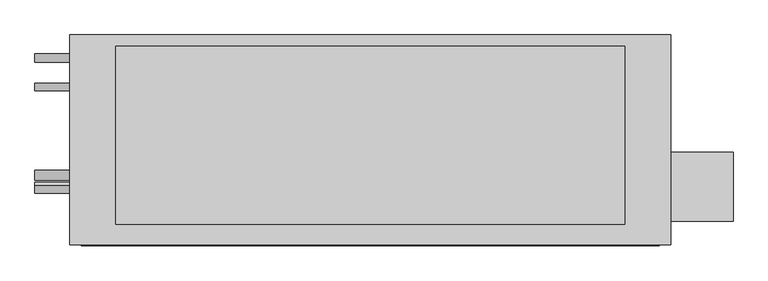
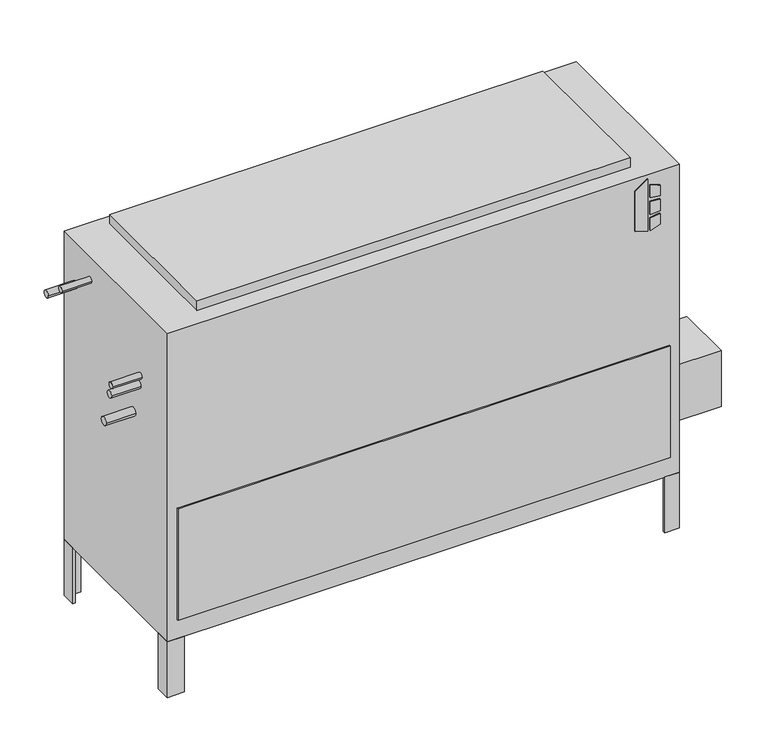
"""IFC4 building model written with IfcOpenShell, lengths in millimetres: proxy geometry, Concealed_High_Capacity_Vertical_Fan_Coil_Unit_-_VEY_-_IEC_-_4-Pipe_LH_2022 : Size 18 - 277v/60Hz/1Ph - 4/2 Coil."""

from ifc_helpers import new_model, si_unit, point, frame, frame_2d, origin, origin_with_axes, place, context, project, spatial, polyline, circle_curve, trimmed, segment, composite_curve, outline, extrude, source, transform, mapped, element, save


def mechanical_equipment_466fcba0(model_context):
    return source(origin(), model_context, "Body", "SweptSolid", [
        extrude(outline(polyline([(698.9230703, 696.9868862), (688.975, 729.1602728), (831.1459244, 729.1602728), (808.1239183, 696.9868862), (698.9230703, 696.9868862)])), frame((0.0, -471.4875, 0.0), z_axis=(0.0, 1.0, 0.0), x_axis=(0.0, 0.0, 1.0)), (0.0, 0.0, 1.0), 3.175),
        extrude(outline(polyline([(777.9223557, 735.9186058), (774.7199632, 762.0), (803.9488042, 762.0), (812.0132193, 735.9186058), (777.9223557, 735.9186058)])), frame((0.0, -471.4875, 0.0), z_axis=(0.0, 1.0, 0.0), x_axis=(0.0, 0.0, 1.0)), (0.0, 0.0, 1.0), 3.175),
        extrude(outline(polyline([(726.0588288, 762.0), (722.3933279, 735.9186058), (688.975, 735.9186058), (697.6092372, 762.0), (726.0588288, 762.0)])), frame((0.0, -471.4875, 0.0), z_axis=(0.0, 1.0, 0.0), x_axis=(0.0, 0.0, 1.0)), (0.0, 0.0, 1.0), 3.175),
        extrude(outline(polyline([(765.3739903, 762.0), (767.6558166, 735.9186058), (731.7182681, 735.9186058), (734.4595331, 762.0), (765.3739903, 762.0)])), frame((0.0, -471.4875, 0.0), z_axis=(0.0, 1.0, 0.0), x_axis=(0.0, 0.0, 1.0)), (0.0, 0.0, 1.0), 3.175),
        extrude(outline(polyline([(949.325, -265.1125), (949.325, -417.5125), (812.8, -417.5125), (812.8, -265.1125), (949.325, -265.1125)])), frame((0.0, 0.0, 101.6), z_axis=(0.0, 0.0, 1.0), x_axis=(1.0, 0.0, 0.0)), (0.0, 0.0, 1.0), 152.4),
        extrude(outline(polyline([(812.8, -46.0375), (806.45, -46.0375), (806.45, -14.2875), (774.7, -14.2875), (774.7, -7.9375), (812.8, -7.9375), (812.8, -46.0375)])), frame((0.0, 0.0, -152.4), z_axis=(0.0, 0.0, 1.0), x_axis=(1.0, 0.0, 0.0)), (0.0, 0.0, 1.0), 152.4),
        extrude(outline(polyline([(-469.9, -7.9375), (-469.9, -14.2875), (-501.65, -14.2875), (-501.65, -46.0375), (-508.0, -46.0375), (-508.0, -7.9375), (-469.9, -7.9375)])), frame((0.0, 0.0, -152.4), z_axis=(0.0, 0.0, 1.0), x_axis=(1.0, 0.0, 0.0)), (0.0, 0.0, 1.0), 152.4),
        extrude(outline(polyline([(774.7, -468.3125), (774.7, -461.9625), (806.45, -461.9625), (806.45, -430.2125), (812.8, -430.2125), (812.8, -468.3125), (774.7, -468.3125)])), frame((0.0, 0.0, -152.4), z_axis=(0.0, 0.0, 1.0), x_axis=(1.0, 0.0, 0.0)), (0.0, 0.0, 1.0), 152.4),
        extrude(outline(polyline([(-508.0, -428.1199163), (-501.65, -428.1199163), (-501.65, -461.9625), (-464.5318533, -461.9625), (-464.5318533, -468.3125), (-508.0, -468.3125), (-508.0, -428.1199163)])), frame((0.0, 0.0, -152.4), z_axis=(0.0, 0.0, 1.0), x_axis=(1.0, 0.0, 0.0)), (0.0, 0.0, 1.0), 152.4),
        extrude(outline(polyline([(711.2, -33.3375), (711.2, -423.8625), (-406.4, -423.8625), (-406.4, -33.3375), (711.2, -33.3375)])), frame((0.0, 0.0, 841.375), z_axis=(0.0, 0.0, 1.0), x_axis=(1.0, 0.0, 0.0)), (0.0, 0.0, 1.0), 25.4),
        extrude(outline(polyline([(787.4, -471.4875), (-482.6, -471.4875), (-482.6, -468.3125), (787.4, -468.3125), (787.4, -471.4875)])), frame((0.0, 0.0, 50.8), z_axis=(0.0, 0.0, 1.0), x_axis=(1.0, 0.0, 0.0)), (0.0, 0.0, 1.0), 304.8),
        extrude(outline(composite_curve([segment(trimmed(circle_curve(frame_2d((-122.2375, 777.875)), 7.9375), [point((-130.175, 777.875))], [point((-114.3, 777.875))], False, "CARTESIAN"), True, "CONTINUOUS"), segment(trimmed(circle_curve(frame_2d((-122.2375, 777.875)), 7.9375), [point((-114.3, 777.875))], [point((-130.175, 777.875))], False, "CARTESIAN"), True, "CONTINUOUS")], self_intersect=False)), frame((-584.2, 0.0, 0.0), z_axis=(1.0, 0.0, 0.0), x_axis=(0.0, 1.0, 0.0)), (0.0, 0.0, 1.0), 76.2),
        extrude(outline(composite_curve([segment(trimmed(circle_curve(frame_2d((-347.3848135, 653.2230057)), 7.9375), [point((-355.3223135, 653.2230057))], [point((-339.4473135, 653.2230057))], False, "CARTESIAN"), True, "CONTINUOUS"), segment(trimmed(circle_curve(frame_2d((-347.3848135, 653.2230057)), 7.9375), [point((-339.4473135, 653.2230057))], [point((-355.3223135, 653.2230057))], False, "CARTESIAN"), True, "CONTINUOUS")], self_intersect=False)), frame((-584.2, 0.0, 0.0), z_axis=(1.0, 0.0, 0.0), x_axis=(0.0, 1.0, 0.0)), (0.0, 0.0, 1.0), 76.2),
        extrude(outline(composite_curve([segment(trimmed(circle_curve(frame_2d((-58.7375, 727.075)), 9.525), [point((-68.2625, 727.075))], [point((-49.2125, 727.075))], False, "CARTESIAN"), True, "CONTINUOUS"), segment(trimmed(circle_curve(frame_2d((-58.7375, 727.075)), 9.525), [point((-49.2125, 727.075))], [point((-68.2625, 727.075))], False, "CARTESIAN"), True, "CONTINUOUS")], self_intersect=False)), frame((-584.2, 0.0, 0.0), z_axis=(1.0, 0.0, 0.0), x_axis=(0.0, 1.0, 0.0)), (0.0, 0.0, 1.0), 76.2),
        extrude(outline(composite_curve([segment(trimmed(circle_curve(frame_2d((-341.3125, 625.475)), 9.525), [point((-350.8375, 625.475))], [point((-331.7875, 625.475))], False, "CARTESIAN"), True, "CONTINUOUS"), segment(trimmed(circle_curve(frame_2d((-341.3125, 625.475)), 9.525), [point((-331.7875, 625.475))], [point((-350.8375, 625.475))], False, "CARTESIAN"), True, "CONTINUOUS")], self_intersect=False)), frame((-584.2, 0.0, 0.0), z_axis=(1.0, 0.0, 0.0), x_axis=(0.0, 1.0, 0.0)), (0.0, 0.0, 1.0), 76.2),
        extrude(outline(composite_curve([segment(trimmed(circle_curve(frame_2d((-315.9125, 536.575)), 11.1125), [point((-327.025, 536.575))], [point((-304.8, 536.575))], False, "CARTESIAN"), True, "CONTINUOUS"), segment(trimmed(circle_curve(frame_2d((-315.9125, 536.575)), 11.1125), [point((-304.8, 536.575))], [point((-327.025, 536.575))], False, "CARTESIAN"), True, "CONTINUOUS")], self_intersect=False)), frame((-584.2, 0.0, 0.0), z_axis=(1.0, 0.0, 0.0), x_axis=(0.0, 1.0, 0.0)), (0.0, 0.0, 1.0), 76.2),
        extrude(outline(polyline([(812.8, -7.9375), (812.8, -468.3125), (-508.0, -468.3125), (-508.0, -7.9375), (812.8, -7.9375)])), origin_with_axes(), (0.0, 0.0, 1.0), 841.375),
    ])


if __name__ == "__main__":
    model = new_model("IFC4")
    model_context = context("Model", 3, world=origin())
    ifc_project = project(units=[si_unit("LENGTHUNIT", "METRE", prefix="MILLI")], contexts=[model_context])
    site = spatial("IfcSite", under=ifc_project)
    building = spatial("IfcBuilding", under=site)
    placement = place(None, origin())
    mechanical_equipment_shape = mechanical_equipment_466fcba0(model_context)
    element("IfcBuildingElementProxy", 1, Name="Concealed_High_Capacity_Vertical_Fan_Coil_Unit_-_VEY_-_IEC_-_4-Pipe_LH_2022 : Size 18 - 277v/60Hz/1Ph - 4/2 Coil", ObjectType="Concealed_High_Capacity_Vertical_Fan_Coil_Unit_-_VEY_-_IEC_-_4-Pipe_LH_2022 : Size 18 - 277v/60Hz/1Ph - 4/2 Coil", at=placement, inside=building, context=model_context, shape_type="MappedRepresentation", body=[
        mapped(mechanical_equipment_shape, transform((0.0, 0.0, 0.0), x_axis=(1.0, 0.0, 0.0), y_axis=(0.0, 1.0, 0.0), z_axis=(0.0, 0.0, 1.0))),
    ])
    save(model, "model.ifc")
